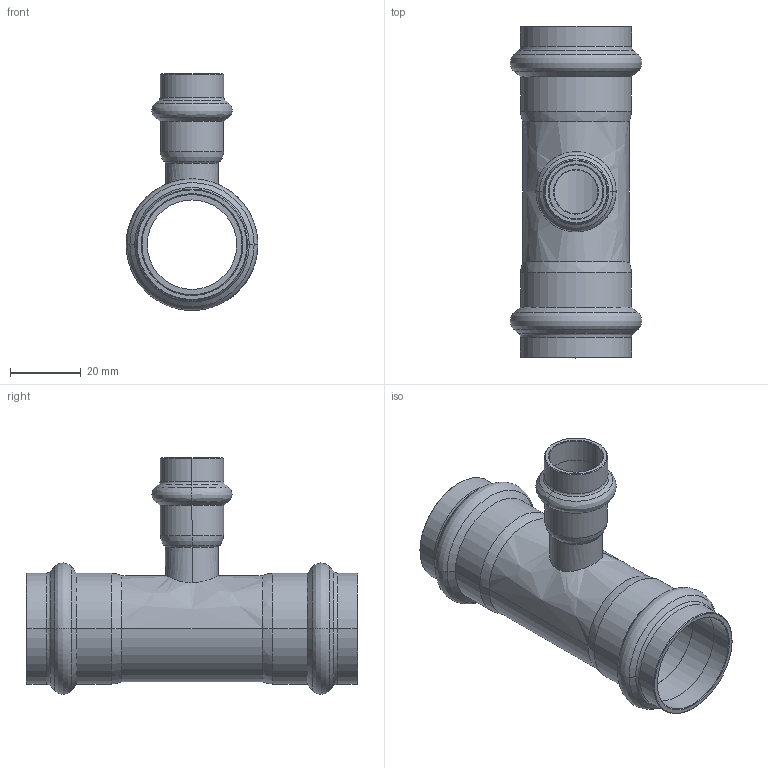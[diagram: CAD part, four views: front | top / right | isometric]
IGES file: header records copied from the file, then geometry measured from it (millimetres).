
Start section: Elysium IGES Interface
Global section: file name: C:\Users\Wallenburg\Desktop\3d modellen sudo\S-Pr VP\SP6130RV\6130RVW281528.igs; native system: CoCreate Modeling 17.00A  17-Jun-2010; preprocessor: CoCreate IGES_3D V2.2; author: Unknown; organization: Unknown; date: 20130117.132923; units: millimetre
Bounding box: 37.2 x 93.81 x 66.95 mm (x, y, z)
Volume: 19128.7 mm3; surface area: 22163.1 mm2
Topology: 1 solids, 1 shells, 124 faces, 260 edges, 146 vertices
Faces by surface type: bspline 124
